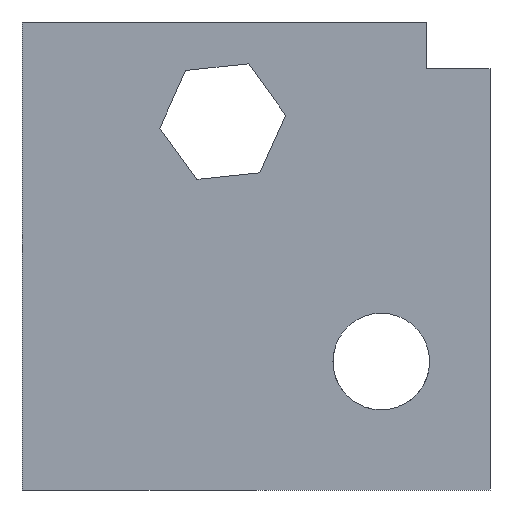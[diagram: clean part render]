
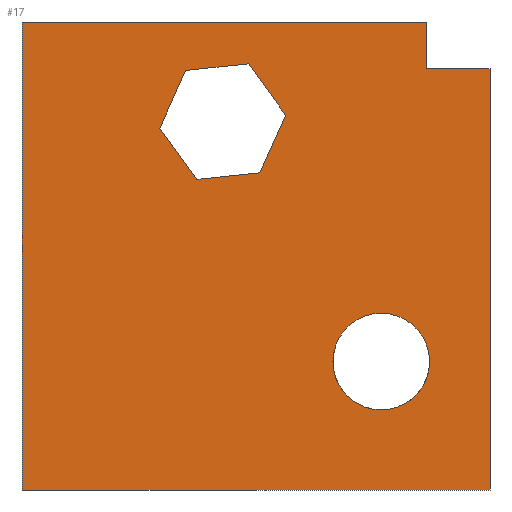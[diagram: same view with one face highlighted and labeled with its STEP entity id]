
A CAD part, left-side view. The second image highlights one B-rep face of the part: STEP entity #17.
In plain terms, the highlighted planar face has unit normal (-1, 0, 0).
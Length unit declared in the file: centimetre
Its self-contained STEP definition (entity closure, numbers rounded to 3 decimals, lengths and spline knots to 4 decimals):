
#8 = LINE ( 'NONE', #293, #424 ) ;
#11 = VERTEX_POINT ( 'NONE', #466 ) ;
#17 = ADVANCED_FACE ( 'NONE', ( #629, #905, #916 ), #173, .F. ) ;
#20 = ORIENTED_EDGE ( 'NONE', *, *, #354, .F. ) ;
#25 = VERTEX_POINT ( 'NONE', #265 ) ;
#31 = CARTESIAN_POINT ( 'NONE',  ( 0., 626.1394, 663.6896 ) ) ;
#38 = LINE ( 'NONE', #163, #819 ) ;
#56 = CARTESIAN_POINT ( 'NONE',  ( 0., 1000., 1000. ) ) ;
#60 = ORIENTED_EDGE ( 'NONE', *, *, #617, .T. ) ;
#62 = AXIS2_PLACEMENT_3D ( 'NONE', #56, #193, #268 ) ;
#71 = CARTESIAN_POINT ( 'NONE',  ( 0., 232.3135, 171.1073 ) ) ;
#82 = CARTESIAN_POINT ( 'NONE',  ( 0., 491.7321, 677.7713 ) ) ;
#89 = ORIENTED_EDGE ( 'NONE', *, *, #829, .T. ) ;
#91 = DIRECTION ( 'NONE',  ( 0., 0., -1. ) ) ;
#98 = ORIENTED_EDGE ( 'NONE', *, *, #343, .T. ) ;
#104 = ORIENTED_EDGE ( 'NONE', *, *, #199, .T. ) ;
#106 = EDGE_CURVE ( 'NONE', #348, #604, #257, .T. ) ;
#117 = DIRECTION ( 'NONE',  ( 0., 0.407, -0.913 ) ) ;
#128 = VERTEX_POINT ( 'NONE', #71 ) ;
#137 = VERTEX_POINT ( 'NONE', #864 ) ;
#163 = CARTESIAN_POINT ( 'NONE',  ( 0., 1000., 1000. ) ) ;
#167 = EDGE_CURVE ( 'NONE', #791, #137, #846, .T. ) ;
#169 = LINE ( 'NONE', #720, #468 ) ;
#173 = PLANE ( 'NONE',  #62 ) ;
#179 = EDGE_CURVE ( 'NONE', #11, #25, #858, .T. ) ;
#183 = EDGE_CURVE ( 'NONE', #913, #128, #325, .T. ) ;
#193 = DIRECTION ( 'NONE',  ( 1., 0., 0. ) ) ;
#194 = VECTOR ( 'NONE', #335, 100. ) ;
#199 = EDGE_CURVE ( 'NONE', #604, #878, #8, .T. ) ;
#202 = DIRECTION ( 'NONE',  ( 0., 0., 1. ) ) ;
#206 = DIRECTION ( 'NONE',  ( 0., 1., 0. ) ) ;
#210 = VECTOR ( 'NONE', #534, 100. ) ;
#211 = CARTESIAN_POINT ( 'NONE',  ( 0., 1000., 1000. ) ) ;
#213 = VECTOR ( 'NONE', #345, 100. ) ;
#215 = CARTESIAN_POINT ( 'NONE',  ( 0., 516.1224, 910.5715 ) ) ;
#257 = LINE ( 'NONE', #82, #786 ) ;
#265 = CARTESIAN_POINT ( 'NONE',  ( 0., 136.664, 1000. ) ) ;
#266 = VECTOR ( 'NONE', #460, 100. ) ;
#268 = DIRECTION ( 'NONE',  ( 0., 0., -1. ) ) ;
#274 = LINE ( 'NONE', #792, #213 ) ;
#280 = CARTESIAN_POINT ( 'NONE',  ( 0., 136.664, 899.6217 ) ) ;
#293 = CARTESIAN_POINT ( 'NONE',  ( 0., 626.1394, 663.6896 ) ) ;
#325 = CIRCLE ( 'NONE', #351, 103.295 ) ;
#326 = LINE ( 'NONE', #613, #210 ) ;
#335 = DIRECTION ( 'NONE',  ( 0., 0., -1. ) ) ;
#336 = VECTOR ( 'NONE', #930, 100. ) ;
#343 = EDGE_CURVE ( 'NONE', #137, #348, #834, .T. ) ;
#345 = DIRECTION ( 'NONE',  ( 0., -1., 0. ) ) ;
#348 = VERTEX_POINT ( 'NONE', #402 ) ;
#350 = DIRECTION ( 'NONE',  ( 0., 0., -1. ) ) ;
#351 = AXIS2_PLACEMENT_3D ( 'NONE', #423, #490, #350 ) ;
#354 = EDGE_CURVE ( 'NONE', #889, #832, #692, .T. ) ;
#402 = CARTESIAN_POINT ( 'NONE',  ( 0., 491.7321, 677.7713 ) ) ;
#413 = ORIENTED_EDGE ( 'NONE', *, *, #915, .T. ) ;
#423 = CARTESIAN_POINT ( 'NONE',  ( 0., 232.3135, 274.4024 ) ) ;
#424 = VECTOR ( 'NONE', #587, 100. ) ;
#449 = ORIENTED_EDGE ( 'NONE', *, *, #926, .F. ) ;
#451 = CARTESIAN_POINT ( 'NONE',  ( 0., 0., 899.6217 ) ) ;
#455 = CARTESIAN_POINT ( 'NONE',  ( 0., 516.1224, 910.5715 ) ) ;
#460 = DIRECTION ( 'NONE',  ( 0., -0.995, 0.104 ) ) ;
#466 = CARTESIAN_POINT ( 'NONE',  ( 0., 136.664, 899.6217 ) ) ;
#468 = VECTOR ( 'NONE', #508, 100. ) ;
#480 = EDGE_LOOP ( 'NONE', ( #20, #413, #723, #449, #89, #482 ) ) ;
#482 = ORIENTED_EDGE ( 'NONE', *, *, #612, .T. ) ;
#490 = DIRECTION ( 'NONE',  ( 1., 0., 0. ) ) ;
#508 = DIRECTION ( 'NONE',  ( 0., -0.407, 0.913 ) ) ;
#522 = LINE ( 'NONE', #560, #628 ) ;
#534 = DIRECTION ( 'NONE',  ( 0., -1., 0. ) ) ;
#548 = VECTOR ( 'NONE', #117, 100. ) ;
#556 = EDGE_CURVE ( 'NONE', #128, #913, #871, .T. ) ;
#560 = CARTESIAN_POINT ( 'NONE',  ( 0., 0., 899.6217 ) ) ;
#587 = DIRECTION ( 'NONE',  ( 0., 0.588, 0.809 ) ) ;
#593 = ORIENTED_EDGE ( 'NONE', *, *, #167, .T. ) ;
#600 = ORIENTED_EDGE ( 'NONE', *, *, #183, .T. ) ;
#604 = VERTEX_POINT ( 'NONE', #31 ) ;
#612 = EDGE_CURVE ( 'NONE', #850, #832, #326, .T. ) ;
#613 = CARTESIAN_POINT ( 'NONE',  ( 0., 1000., 0. ) ) ;
#617 = EDGE_CURVE ( 'NONE', #878, #795, #169, .T. ) ;
#626 = AXIS2_PLACEMENT_3D ( 'NONE', #887, #729, #91 ) ;
#628 = VECTOR ( 'NONE', #206, 100. ) ;
#629 = FACE_BOUND ( 'NONE', #670, .T. ) ;
#656 = ORIENTED_EDGE ( 'NONE', *, *, #106, .T. ) ;
#665 = VERTEX_POINT ( 'NONE', #211 ) ;
#666 = LINE ( 'NONE', #886, #266 ) ;
#670 = EDGE_LOOP ( 'NONE', ( #764, #600 ) ) ;
#688 = CARTESIAN_POINT ( 'NONE',  ( 0., 0., 1000. ) ) ;
#692 = LINE ( 'NONE', #688, #194 ) ;
#720 = CARTESIAN_POINT ( 'NONE',  ( 0., 705.5382, 773.0488 ) ) ;
#723 = ORIENTED_EDGE ( 'NONE', *, *, #179, .T. ) ;
#724 = VECTOR ( 'NONE', #202, 100. ) ;
#729 = DIRECTION ( 'NONE',  ( 1., 0., 0. ) ) ;
#740 = CARTESIAN_POINT ( 'NONE',  ( 0., 650.5297, 896.4898 ) ) ;
#745 = CARTESIAN_POINT ( 'NONE',  ( 0., 0., 0. ) ) ;
#748 = CARTESIAN_POINT ( 'NONE',  ( 0., 705.5382, 773.0488 ) ) ;
#753 = DIRECTION ( 'NONE',  ( 0., 0., -1. ) ) ;
#762 = CARTESIAN_POINT ( 'NONE',  ( 0., 436.7236, 801.2123 ) ) ;
#764 = ORIENTED_EDGE ( 'NONE', *, *, #556, .T. ) ;
#786 = VECTOR ( 'NONE', #848, 100. ) ;
#791 = VERTEX_POINT ( 'NONE', #455 ) ;
#792 = CARTESIAN_POINT ( 'NONE',  ( 0., 1000., 1000. ) ) ;
#795 = VERTEX_POINT ( 'NONE', #740 ) ;
#812 = EDGE_CURVE ( 'NONE', #795, #791, #666, .T. ) ;
#819 = VECTOR ( 'NONE', #753, 100. ) ;
#829 = EDGE_CURVE ( 'NONE', #665, #850, #38, .T. ) ;
#832 = VERTEX_POINT ( 'NONE', #745 ) ;
#834 = LINE ( 'NONE', #762, #548 ) ;
#846 = LINE ( 'NONE', #215, #336 ) ;
#848 = DIRECTION ( 'NONE',  ( 0., 0.995, -0.104 ) ) ;
#850 = VERTEX_POINT ( 'NONE', #893 ) ;
#858 = LINE ( 'NONE', #280, #724 ) ;
#861 = EDGE_LOOP ( 'NONE', ( #98, #656, #104, #60, #897, #593 ) ) ;
#864 = CARTESIAN_POINT ( 'NONE',  ( 0., 436.7236, 801.2123 ) ) ;
#871 = CIRCLE ( 'NONE', #626, 103.295 ) ;
#878 = VERTEX_POINT ( 'NONE', #748 ) ;
#881 = CARTESIAN_POINT ( 'NONE',  ( 0., 232.3135, 377.6974 ) ) ;
#886 = CARTESIAN_POINT ( 'NONE',  ( 0., 650.5297, 896.4898 ) ) ;
#887 = CARTESIAN_POINT ( 'NONE',  ( 0., 232.3135, 274.4024 ) ) ;
#889 = VERTEX_POINT ( 'NONE', #451 ) ;
#893 = CARTESIAN_POINT ( 'NONE',  ( 0., 1000., 0. ) ) ;
#897 = ORIENTED_EDGE ( 'NONE', *, *, #812, .T. ) ;
#905 = FACE_BOUND ( 'NONE', #861, .T. ) ;
#913 = VERTEX_POINT ( 'NONE', #881 ) ;
#915 = EDGE_CURVE ( 'NONE', #889, #11, #522, .T. ) ;
#916 = FACE_OUTER_BOUND ( 'NONE', #480, .T. ) ;
#926 = EDGE_CURVE ( 'NONE', #665, #25, #274, .T. ) ;
#930 = DIRECTION ( 'NONE',  ( 0., -0.588, -0.809 ) ) ;
